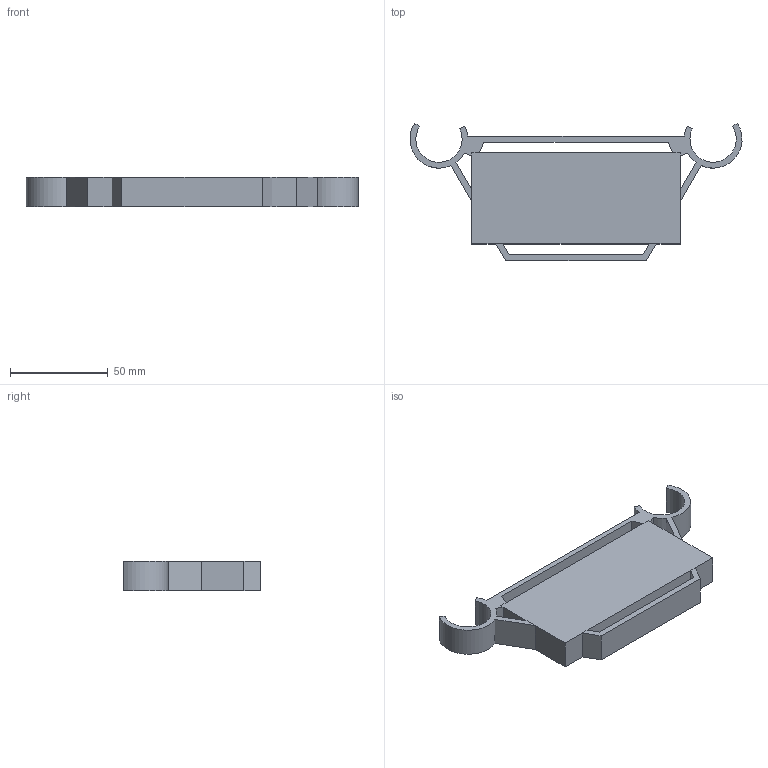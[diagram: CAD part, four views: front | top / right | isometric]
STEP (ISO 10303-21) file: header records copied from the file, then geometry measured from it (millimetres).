
FILE_DESCRIPTION(/* description */ (''),/* implementation_level */ '2;1');
FILE_NAME(/* name */ 'MM_PS_~2',/* time_stamp */ '2015-10-10T14:54:36-04:00',/* author */ (''),/* organization */ (''),/* preprocessor_version */ 'ST-DEVELOPER v15',/* originating_system */ '',/* authorisation */ '');
FILE_SCHEMA (('AUTOMOTIVE_DESIGN'));
Length unit declared in the file: millimetre
Products named in the file (1): Document
Bounding box: 169.57 x 70.23 x 15 mm (x, y, z)
Volume: 42472.6 mm3; surface area: 29954 mm2
Topology: 1 solids, 1 shells, 47 faces, 136 edges, 84 vertices
Faces by surface type: plane 25, bspline 22
Entity records: 1408 total; most frequent: CARTESIAN_POINT 619, ORIENTED_EDGE 272, EDGE_CURVE 136, VERTEX_POINT 84, B_SPLINE_CURVE_WITH_KNOTS 66, EDGE_LOOP 48, ADVANCED_FACE 47, FACE_OUTER_BOUND 47
